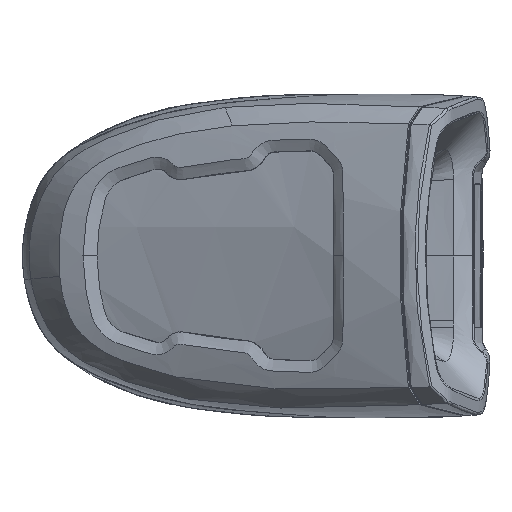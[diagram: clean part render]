
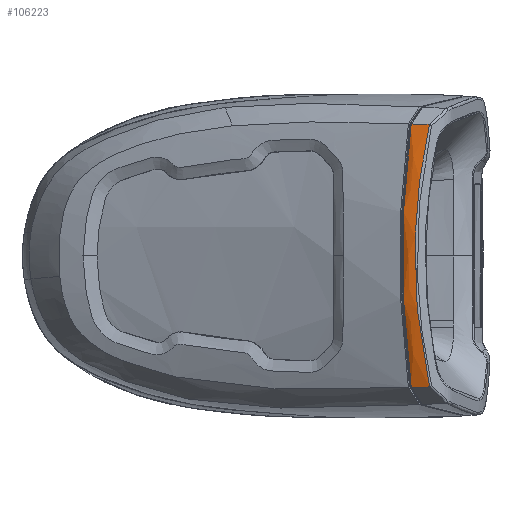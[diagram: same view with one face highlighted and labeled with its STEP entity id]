
A CAD part, top view. The second image highlights one B-rep face of the part: STEP entity #106223.
In plain terms, the highlighted free-form (B-spline) face has degree [3, 3] with [13, 4] control points.
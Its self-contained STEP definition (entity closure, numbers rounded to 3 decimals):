
#15841=CARTESIAN_POINT('',(13.782,-6.259,
35.76));
#16983=CARTESIAN_POINT('',(17.662,47.764,36.978));
#16984=CARTESIAN_POINT('',(17.652,47.767,36.974));
#16985=CARTESIAN_POINT('',(17.633,47.773,36.967));
#16986=CARTESIAN_POINT('',(17.602,47.779,36.956));
#16987=CARTESIAN_POINT('',(17.581,47.781,36.949));
#16988=CARTESIAN_POINT('',(17.569,47.781,36.945));
#16990=CARTESIAN_POINT('',(17.665,-6.127,
36.974));
#16991=CARTESIAN_POINT('',(16.684,-1.759,
37.788));
#16992=CARTESIAN_POINT('',(15.163,7.153,39.048));
#16993=CARTESIAN_POINT('',(14.38,20.818,39.697));
#16994=CARTESIAN_POINT('',(15.161,34.484,39.05));
#16995=CARTESIAN_POINT('',(16.68,43.396,37.791));
#16996=CARTESIAN_POINT('',(17.662,47.764,36.978));
#16998=CARTESIAN_POINT('',(17.574,-6.144,
36.942));
#16999=CARTESIAN_POINT('',(17.585,-6.143,
36.946));
#17000=CARTESIAN_POINT('',(17.607,-6.142,
36.953));
#17001=CARTESIAN_POINT('',(17.637,-6.136,
36.963));
#17002=CARTESIAN_POINT('',(17.656,-6.13,
36.971));
#17003=CARTESIAN_POINT('',(17.665,-6.127,
36.974));
#17005=DIRECTION('',(0.954,0.029,0.298));
#17006=VECTOR('',#17005,3.974);
#17007=CARTESIAN_POINT('',(13.782,-6.259,
35.76));
#17008=LINE('',#17007,#17006);
#17009=CARTESIAN_POINT('',(13.78,47.897,35.764));
#17010=CARTESIAN_POINT('',(13.484,45.653,36.245));
#17011=CARTESIAN_POINT('',(12.965,41.16,37.09));
#17012=CARTESIAN_POINT('',(12.406,34.376,38.));
#17013=CARTESIAN_POINT('',(12.071,27.597,38.546));
#17014=CARTESIAN_POINT('',(11.96,20.819,38.728));
#17015=CARTESIAN_POINT('',(12.072,14.042,38.545));
#17016=CARTESIAN_POINT('',(12.407,7.262,37.999));
#17017=CARTESIAN_POINT('',(12.967,0.478,
37.087));
#17018=CARTESIAN_POINT('',(13.486,-4.015,
36.242));
#17019=CARTESIAN_POINT('',(13.782,-6.259,
35.76));
#17021=DIRECTION('',(-0.954,0.029,-0.298));
#17022=VECTOR('',#17021,3.971);
#17023=CARTESIAN_POINT('',(17.569,47.781,36.945));
#17024=LINE('',#17023,#17022);
#62692=VERTEX_POINT('',#15841);
#62693=CARTESIAN_POINT('',(17.574,-6.144,
36.942));
#62694=VERTEX_POINT('',#62693);
#62712=CARTESIAN_POINT('',(17.569,47.781,36.945));
#62713=CARTESIAN_POINT('',(13.78,47.897,35.764));
#62714=VERTEX_POINT('',#62712);
#62715=VERTEX_POINT('',#62713);
#62716=VERTEX_POINT('',#17003);
#62717=VERTEX_POINT('',#16996);
#106161=CARTESIAN_POINT('',(13.551,48.436,
35.555));
#106162=CARTESIAN_POINT('',(15.149,48.387,
36.054));
#106163=CARTESIAN_POINT('',(16.748,48.337,
36.553));
#106164=CARTESIAN_POINT('',(18.346,48.287,
37.051));
#106165=CARTESIAN_POINT('',(13.527,48.26,
35.594));
#106166=CARTESIAN_POINT('',(15.125,48.21,
36.092));
#106167=CARTESIAN_POINT('',(16.724,48.161,
36.591));
#106168=CARTESIAN_POINT('',(18.322,48.111,
37.089));
#106169=CARTESIAN_POINT('',(13.206,45.84,
36.119));
#106170=CARTESIAN_POINT('',(14.8,45.795,
36.614));
#106171=CARTESIAN_POINT('',(16.393,45.75,
37.11));
#106172=CARTESIAN_POINT('',(17.987,45.705,
37.606));
#106173=CARTESIAN_POINT('',(12.669,41.167,
36.998));
#106174=CARTESIAN_POINT('',(14.253,41.131,
37.489));
#106175=CARTESIAN_POINT('',(15.837,41.095,
37.98));
#106176=CARTESIAN_POINT('',(17.422,41.058,
38.471));
#106177=CARTESIAN_POINT('',(12.112,34.381,
37.909));
#106178=CARTESIAN_POINT('',(13.683,34.357,
38.395));
#106179=CARTESIAN_POINT('',(15.253,34.333,
38.88));
#106180=CARTESIAN_POINT('',(16.824,34.309,
39.365));
#106181=CARTESIAN_POINT('',(11.78,27.599,
38.456));
#106182=CARTESIAN_POINT('',(13.336,27.587,
38.936));
#106183=CARTESIAN_POINT('',(14.892,27.575,
39.415));
#106184=CARTESIAN_POINT('',(16.449,27.564,39.895));
#106185=CARTESIAN_POINT('',(11.671,20.819,
38.639));
#106186=CARTESIAN_POINT('',(13.213,20.82,
39.113));
#106187=CARTESIAN_POINT('',(14.755,20.82,
39.588));
#106188=CARTESIAN_POINT('',(16.296,20.82,
40.063));
#106189=CARTESIAN_POINT('',(11.786,14.04,
38.457));
#106190=CARTESIAN_POINT('',(13.313,14.052,
38.928));
#106191=CARTESIAN_POINT('',(14.84,14.063,
39.398));
#106192=CARTESIAN_POINT('',(16.366,14.075,
39.868));
#106193=CARTESIAN_POINT('',(12.124,7.258,
37.911));
#106194=CARTESIAN_POINT('',(13.636,7.281,
38.378));
#106195=CARTESIAN_POINT('',(15.148,7.304,
38.845));
#106196=CARTESIAN_POINT('',(16.659,7.327,
39.311));
#106197=CARTESIAN_POINT('',(12.687,0.472,
37.));
#106198=CARTESIAN_POINT('',(14.183,0.506,
37.464));
#106199=CARTESIAN_POINT('',(15.679,0.54,
37.928));
#106200=CARTESIAN_POINT('',(17.175,0.574,
38.391));
#106201=CARTESIAN_POINT('',(13.229,-4.201,
36.121));
#106202=CARTESIAN_POINT('',(14.714,-4.16,
36.584));
#106203=CARTESIAN_POINT('',(16.198,-4.118,
37.046));
#106204=CARTESIAN_POINT('',(17.683,-4.076,
37.508));
#106205=CARTESIAN_POINT('',(13.552,-6.621,
35.597));
#106206=CARTESIAN_POINT('',(15.031,-6.576,
36.058));
#106207=CARTESIAN_POINT('',(16.51,-6.53,
36.52));
#106208=CARTESIAN_POINT('',(17.989,-6.485,
36.981));
#106209=CARTESIAN_POINT('',(13.576,-6.798,
35.559));
#106210=CARTESIAN_POINT('',(15.054,-6.752,
36.02));
#106211=CARTESIAN_POINT('',(16.533,-6.706,
36.481));
#106212=CARTESIAN_POINT('',(18.011,-6.661,
36.942));
#106213=B_SPLINE_SURFACE_WITH_KNOTS('',3,3,((#106161,#106162,#106163,#106164),(
#106165,#106166,#106167,#106168),(#106169,#106170,#106171,#106172),(#106173,
#106174,#106175,#106176),(#106177,#106178,#106179,#106180),(#106181,#106182,
#106183,#106184),(#106185,#106186,#106187,#106188),(#106189,#106190,#106191,
#106192),(#106193,#106194,#106195,#106196),(#106197,#106198,#106199,#106200),(
#106201,#106202,#106203,#106204),(#106205,#106206,#106207,#106208),(#106209,
#106210,#106211,#106212)),.UNSPECIFIED.,.F.,.F.,.F.,(4,1,1,1,1,1,1,1,1,1,4),(4,
4),(-0.01,0.,0.127,0.252,
0.376,0.5,0.624,0.748,
0.873,1.,1.01),(-0.015,0.225),
.UNSPECIFIED.);
#106214=ORIENTED_EDGE('',*,*,#106140,.F.);
#106216=ORIENTED_EDGE('',*,*,#106215,.F.);
#106217=ORIENTED_EDGE('',*,*,#102886,.F.);
#106218=ORIENTED_EDGE('',*,*,#102779,.F.);
#106219=ORIENTED_EDGE('',*,*,#102749,.F.);
#106220=ORIENTED_EDGE('',*,*,#106152,.F.);
#106221=EDGE_LOOP('',(#106214,#106216,#106217,#106218,#106219,#106220));
#106222=FACE_OUTER_BOUND('',#106221,.F.);
#106223=ADVANCED_FACE('',(#106222),#106213,.T.);
#16989=B_SPLINE_CURVE_WITH_KNOTS('',3,(#16983,#16984,#16985,#16986,#16987,
#16988),.UNSPECIFIED.,.F.,.F.,(4,1,1,4),(0.,0.333,
0.667,1.),.UNSPECIFIED.);
#16997=B_SPLINE_CURVE_WITH_KNOTS('',3,(#16990,#16991,#16992,#16993,#16994,
#16995,#16996),.UNSPECIFIED.,.F.,.F.,(4,1,1,1,4),(0.,0.25,
0.5,0.75,1.),.UNSPECIFIED.);
#17004=B_SPLINE_CURVE_WITH_KNOTS('',3,(#16998,#16999,#17000,#17001,#17002,
#17003),.UNSPECIFIED.,.F.,.F.,(4,1,1,4),(0.,0.333,
0.667,1.),.UNSPECIFIED.);
#17020=B_SPLINE_CURVE_WITH_KNOTS('',3,(#17009,#17010,#17011,#17012,#17013,
#17014,#17015,#17016,#17017,#17018,#17019),.UNSPECIFIED.,.F.,.F.,(4,1,1,1,1,1,1,
1,4),(0.,0.127,0.252,0.376,
0.5,0.624,0.748,0.873,1.),
.UNSPECIFIED.);
#102749=EDGE_CURVE('',#62715,#62692,#17020,.T.);
#102779=EDGE_CURVE('',#62692,#62694,#17008,.T.);
#102886=EDGE_CURVE('',#62694,#62716,#17004,.T.);
#106140=EDGE_CURVE('',#62717,#62714,#16989,.T.);
#106152=EDGE_CURVE('',#62714,#62715,#17024,.T.);
#106215=EDGE_CURVE('',#62716,#62717,#16997,.T.);
